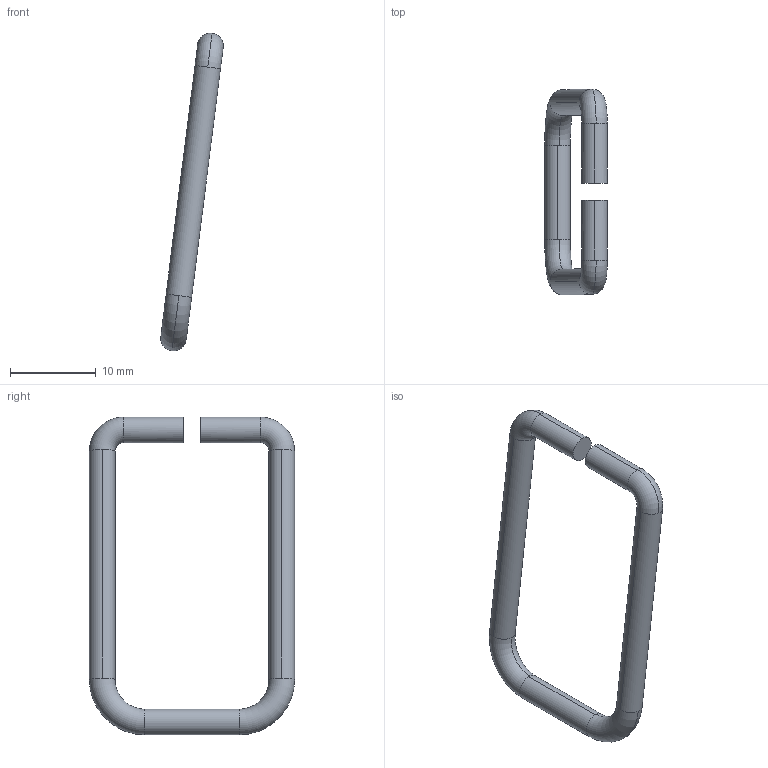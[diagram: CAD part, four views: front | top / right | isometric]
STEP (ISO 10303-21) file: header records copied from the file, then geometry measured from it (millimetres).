
FILE_DESCRIPTION (( 'STEP AP214' ), '1' );
FILE_NAME ('P-01010 - Snap Ring Loop - v2.1.2_Final Length.STEP', '2026-06-12T21:57:04', ( '' ), ( '' ), 'SwSTEP 2.0', 'SolidWorks 2023', '' );
FILE_SCHEMA (( 'AUTOMOTIVE_DESIGN' ));
Length unit declared in the file: inch
Products named in the file (1): P-01010 - Snap Ring Loop - v2.1.2_Final Length
Bounding box: 7.32 x 24 x 37.17 mm (x, y, z)
Volume: 724.1 mm3; surface area: 979.6 mm2
Topology: 1 solids, 1 shells, 20 faces, 54 edges, 36 vertices
Faces by surface type: cylinder 10, torus 8, plane 2
Entity records: 689 total; most frequent: DIRECTION 140, CARTESIAN_POINT 111, ORIENTED_EDGE 108, AXIS2_PLACEMENT_3D 65, EDGE_CURVE 54, CIRCLE 44, VERTEX_POINT 36, EDGE_LOOP 20
